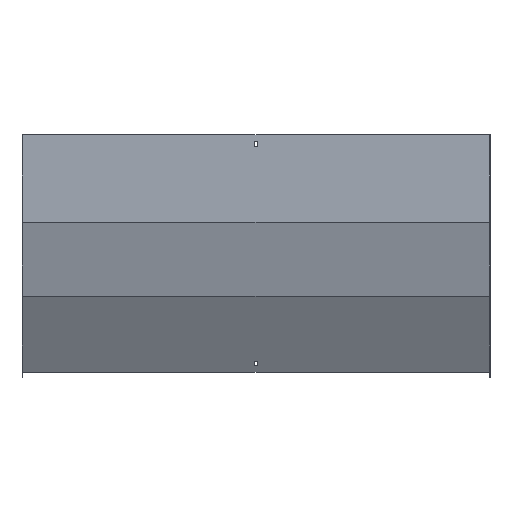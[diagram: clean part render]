
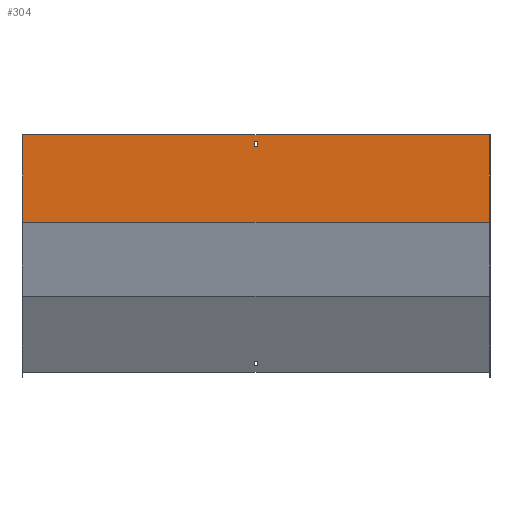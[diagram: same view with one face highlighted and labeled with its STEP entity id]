
A CAD part, front view. The second image highlights one B-rep face of the part: STEP entity #304.
In plain terms, the highlighted planar face has unit normal (0, -1, 0).
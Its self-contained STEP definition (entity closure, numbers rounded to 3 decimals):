
#9 = DIRECTION ( 'NONE',  ( -1., 0., 0. ) ) ;
#18 = EDGE_CURVE ( 'NONE', #133, #155, #209, .T. ) ;
#21 = DIRECTION ( 'NONE',  ( 0., 0., -1. ) ) ;
#43 = VECTOR ( 'NONE', #21, 1000. ) ;
#70 = VERTEX_POINT ( 'NONE', #662 ) ;
#81 = CARTESIAN_POINT ( 'NONE',  ( -400., -1.5, 0. ) ) ;
#97 = DIRECTION ( 'NONE',  ( 0., 0., -1. ) ) ;
#111 = CARTESIAN_POINT ( 'NONE',  ( 3.25, -1.5, 0. ) ) ;
#128 = LINE ( 'NONE', #267, #328 ) ;
#131 = DIRECTION ( 'NONE',  ( 0., 1., 0. ) ) ;
#133 = VERTEX_POINT ( 'NONE', #751 ) ;
#143 = ORIENTED_EDGE ( 'NONE', *, *, #551, .F. ) ;
#155 = VERTEX_POINT ( 'NONE', #302 ) ;
#181 = LINE ( 'NONE', #637, #241 ) ;
#190 = PLANE ( 'NONE',  #660 ) ;
#194 = VECTOR ( 'NONE', #446, 1000. ) ;
#197 = EDGE_LOOP ( 'NONE', ( #498, #766, #573, #143 ) ) ;
#209 = LINE ( 'NONE', #412, #491 ) ;
#220 = LINE ( 'NONE', #600, #565 ) ;
#241 = VECTOR ( 'NONE', #781, 1000. ) ;
#243 = DIRECTION ( 'NONE',  ( -1., 0., 0. ) ) ;
#251 = EDGE_CURVE ( 'NONE', #70, #822, #309, .T. ) ;
#267 = CARTESIAN_POINT ( 'NONE',  ( 401.5, -1.5, -21. ) ) ;
#302 = CARTESIAN_POINT ( 'NONE',  ( -400., -1.5, 0. ) ) ;
#304 = ADVANCED_FACE ( 'NONE', ( #802, #656 ), #190, .F. ) ;
#309 = LINE ( 'NONE', #564, #679 ) ;
#310 = LINE ( 'NONE', #853, #194 ) ;
#328 = VECTOR ( 'NONE', #590, 1000. ) ;
#372 = CARTESIAN_POINT ( 'NONE',  ( -3.25, -1.5, -12. ) ) ;
#388 = DIRECTION ( 'NONE',  ( 0., 0., 1. ) ) ;
#412 = CARTESIAN_POINT ( 'NONE',  ( 401.5, -1.5, 0. ) ) ;
#425 = ORIENTED_EDGE ( 'NONE', *, *, #251, .F. ) ;
#446 = DIRECTION ( 'NONE',  ( -1., 0., 0. ) ) ;
#448 = CARTESIAN_POINT ( 'NONE',  ( -3.25, -1.5, -21. ) ) ;
#459 = EDGE_LOOP ( 'NONE', ( #589, #425, #717, #642 ) ) ;
#487 = VERTEX_POINT ( 'NONE', #448 ) ;
#491 = VECTOR ( 'NONE', #9, 1000. ) ;
#498 = ORIENTED_EDGE ( 'NONE', *, *, #669, .F. ) ;
#512 = VERTEX_POINT ( 'NONE', #372 ) ;
#518 = CARTESIAN_POINT ( 'NONE',  ( -400., -1.5, -150.097 ) ) ;
#551 = EDGE_CURVE ( 'NONE', #630, #512, #310, .T. ) ;
#552 = VERTEX_POINT ( 'NONE', #834 ) ;
#564 = CARTESIAN_POINT ( 'NONE',  ( 401.5, -1.5, -150.097 ) ) ;
#565 = VECTOR ( 'NONE', #97, 1000. ) ;
#573 = ORIENTED_EDGE ( 'NONE', *, *, #850, .F. ) ;
#589 = ORIENTED_EDGE ( 'NONE', *, *, #800, .T. ) ;
#590 = DIRECTION ( 'NONE',  ( 1., 0., 0. ) ) ;
#596 = EDGE_CURVE ( 'NONE', #133, #70, #181, .T. ) ;
#598 = VECTOR ( 'NONE', #701, 1000. ) ;
#600 = CARTESIAN_POINT ( 'NONE',  ( -3.25, -1.5, 0. ) ) ;
#630 = VERTEX_POINT ( 'NONE', #691 ) ;
#637 = CARTESIAN_POINT ( 'NONE',  ( 400., -1.5, 0. ) ) ;
#642 = ORIENTED_EDGE ( 'NONE', *, *, #18, .T. ) ;
#656 = FACE_BOUND ( 'NONE', #197, .T. ) ;
#660 = AXIS2_PLACEMENT_3D ( 'NONE', #721, #131, #388 ) ;
#662 = CARTESIAN_POINT ( 'NONE',  ( 400., -1.5, -150.097 ) ) ;
#665 = LINE ( 'NONE', #81, #43 ) ;
#669 = EDGE_CURVE ( 'NONE', #552, #630, #845, .T. ) ;
#679 = VECTOR ( 'NONE', #243, 1000. ) ;
#691 = CARTESIAN_POINT ( 'NONE',  ( 3.25, -1.5, -12. ) ) ;
#701 = DIRECTION ( 'NONE',  ( 0., 0., 1. ) ) ;
#717 = ORIENTED_EDGE ( 'NONE', *, *, #596, .F. ) ;
#721 = CARTESIAN_POINT ( 'NONE',  ( 401.5, -1.5, 0. ) ) ;
#751 = CARTESIAN_POINT ( 'NONE',  ( 400., -1.5, 0. ) ) ;
#766 = ORIENTED_EDGE ( 'NONE', *, *, #782, .F. ) ;
#781 = DIRECTION ( 'NONE',  ( 0., 0., -1. ) ) ;
#782 = EDGE_CURVE ( 'NONE', #487, #552, #128, .T. ) ;
#800 = EDGE_CURVE ( 'NONE', #155, #822, #665, .T. ) ;
#802 = FACE_OUTER_BOUND ( 'NONE', #459, .T. ) ;
#822 = VERTEX_POINT ( 'NONE', #518 ) ;
#834 = CARTESIAN_POINT ( 'NONE',  ( 3.25, -1.5, -21. ) ) ;
#845 = LINE ( 'NONE', #111, #598 ) ;
#850 = EDGE_CURVE ( 'NONE', #512, #487, #220, .T. ) ;
#853 = CARTESIAN_POINT ( 'NONE',  ( 401.5, -1.5, -12. ) ) ;
